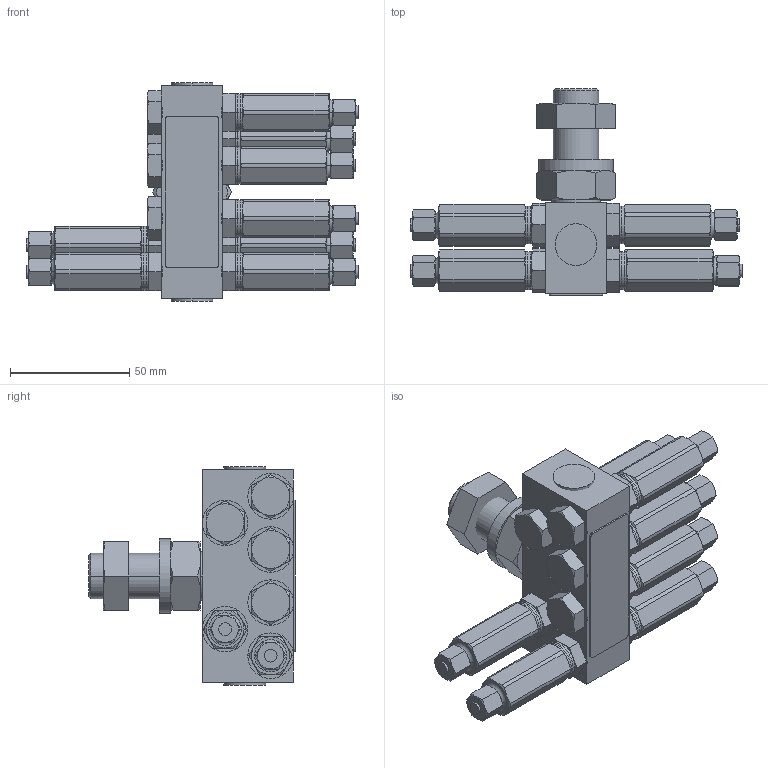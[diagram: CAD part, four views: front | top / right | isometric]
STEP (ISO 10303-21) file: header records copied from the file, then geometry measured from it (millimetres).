
FILE_DESCRIPTION((''),'2;1');
FILE_NAME('25C857-EN-B_PRT','2019-12-31T19:50:38',('qusrh3'),(''),'CREO PARAMETRIC BY PTC INC, 2019030','CREO PARAMETRIC BY PTC INC, 2019030','');
FILE_SCHEMA(('CONFIG_CONTROL_DESIGN'));
Length unit declared in the file: inch
Products named in the file (1): 25C857-EN-B_PRT
Bounding box: 138.94 x 86.39 x 91.34 mm (x, y, z)
Surface area: 55764 mm2 (no closed solid volume)
Topology: 0 solids, 76 shells, 570 faces, 1402 edges, 882 vertices
Faces by surface type: plane 261, cone 160, cylinder 131, torus 18
Entity records: 18353 total; most frequent: CARTESIAN_POINT 5482, DIRECTION 2682, ORIENTED_EDGE 2508, EDGE_CURVE 1402, AXIS2_PLACEMENT_3D 1070, VERTEX_POINT 882, EDGE_LOOP 570, FACE_OUTER_BOUND 570
